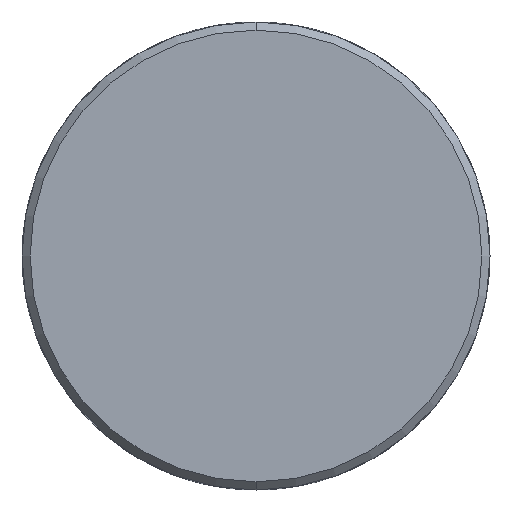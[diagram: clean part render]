
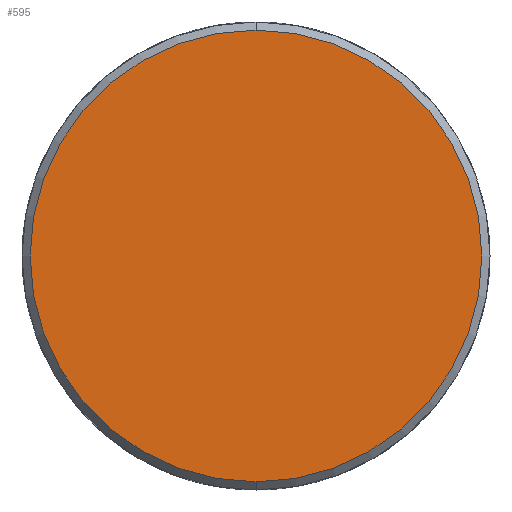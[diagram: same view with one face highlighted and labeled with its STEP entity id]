
A CAD part, front view. The second image highlights one B-rep face of the part: STEP entity #595.
In plain terms, the highlighted planar face has unit normal (0, -1, 0).
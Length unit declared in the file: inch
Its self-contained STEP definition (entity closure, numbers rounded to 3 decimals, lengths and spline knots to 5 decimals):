
#93 = EDGE_CURVE ( 'NONE', #4097, #4090, #933, .T. ) ;
#585 = EDGE_CURVE ( 'NONE', #4090, #4097, #1715, .T. ) ;
#586 = ORIENTED_EDGE ( 'NONE', *, *, #93, .T. ) ;
#595 = ADVANCED_FACE ( 'NONE', ( #1698 ), #1697, .F. ) ;
#596 = ORIENTED_EDGE ( 'NONE', *, *, #585, .T. ) ;
#644 = EDGE_LOOP ( 'NONE', ( #596, #586 ) ) ;
#929 = DIRECTION ( 'NONE',  ( 0., 0., 1. ) ) ;
#930 = DIRECTION ( 'NONE',  ( 0., -1., 0. ) ) ;
#931 = CARTESIAN_POINT ( 'NONE',  ( 0., 0., 0. ) ) ;
#932 = AXIS2_PLACEMENT_3D ( 'NONE', #931, #930, #929 ) ;
#933 = CIRCLE ( 'NONE', #932, 1.665 ) ;
#1694 = DIRECTION ( 'NONE',  ( 0., 1., 0. ) ) ;
#1695 = AXIS2_PLACEMENT_3D ( 'NONE', #1696, #1694, #1752 ) ;
#1696 = CARTESIAN_POINT ( 'NONE',  ( 0., 0., 0. ) ) ;
#1697 = PLANE ( 'NONE',  #1695 ) ;
#1698 = FACE_OUTER_BOUND ( 'NONE', #644, .T. ) ;
#1711 = DIRECTION ( 'NONE',  ( 0., 0., 1. ) ) ;
#1712 = DIRECTION ( 'NONE',  ( 0., -1., 0. ) ) ;
#1713 = CARTESIAN_POINT ( 'NONE',  ( 0., 0., 0. ) ) ;
#1714 = AXIS2_PLACEMENT_3D ( 'NONE', #1713, #1712, #1711 ) ;
#1715 = CIRCLE ( 'NONE', #1714, 1.665 ) ;
#1752 = DIRECTION ( 'NONE',  ( 0., 0., 1. ) ) ;
#3374 = CARTESIAN_POINT ( 'NONE',  ( 0., 0., -1.665 ) ) ;
#3380 = CARTESIAN_POINT ( 'NONE',  ( 0., 0., 1.665 ) ) ;
#4090 = VERTEX_POINT ( 'NONE', #3380 ) ;
#4097 = VERTEX_POINT ( 'NONE', #3374 ) ;
